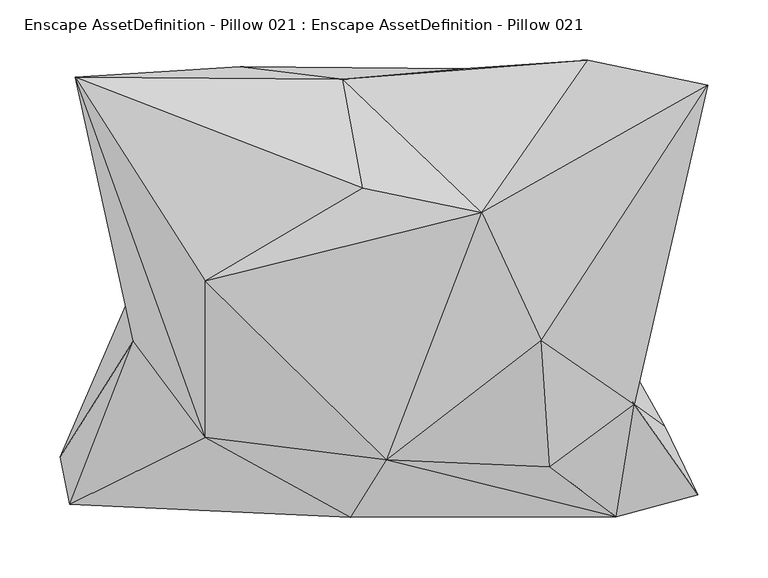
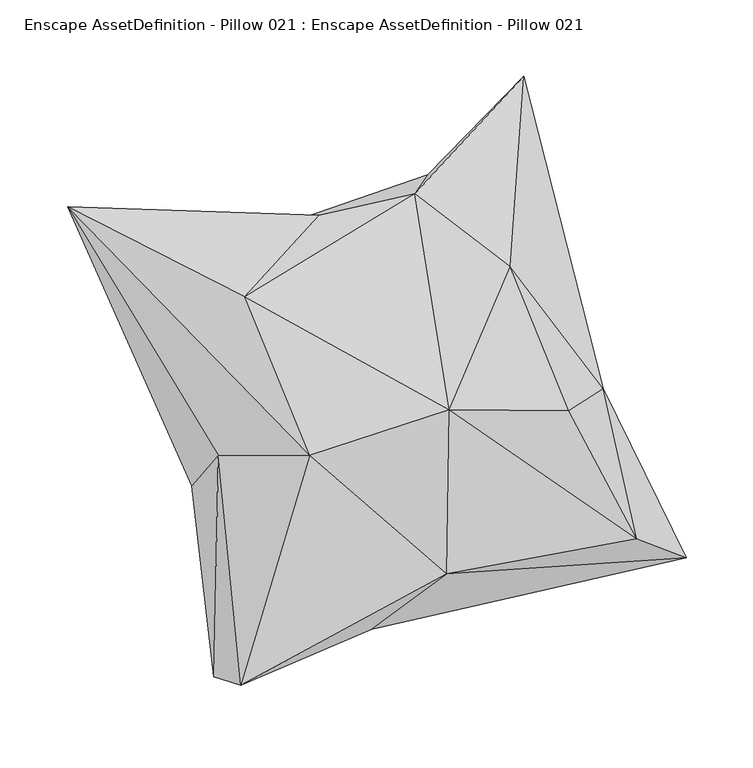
"""IFC4 building model written with IfcOpenShell, lengths in millimetres: geographic element geometry, Enscape AssetDefinition - Pillow 021 : Enscape AssetDefinition - Pillow 021."""

from ifc_helpers import new_model, si_unit, origin, place, context, project, spatial, faceted_brep, source, transform, mapped, element, save


def enscape_assetdefinition_pillow_021_enscape_assetdefinition_4c80c713(model_context):
    return source(origin(), model_context, "Body", "Brep", [
        faceted_brep([(64.0888957, 30.7370498, 25.1929534), (-143.7980654, 71.0720275, 65.4247882), (71.8568301, 186.4809455, 194.8526455), (-112.7818571, 188.243161, 228.8082324), (-189.6800206, -28.4973389, 15.9030257), (-184.8839459, 42.7831555, 118.8114086), (-249.5787692, 179.5944674, 400.0), (266.3978714, -166.8775289, 0.0), (239.074839, -110.2204338, 32.1962878), (-81.3963366, -138.9774501, 17.2490155), (-21.4233168, -185.8396883, 92.206817), (213.9525719, -91.9009694, 179.4970893), (198.7881773, -185.3794846, 57.9908256), (274.7940575, 172.8991399, 380.4311995), (136.7831768, -38.9781717, 323.930639), (143.668947, -143.8961623, 208.8636224), (219.887621, 44.370066, 251.7816693), (8.7453289, -137.940189, 253.429885), (87.3176831, 67.3528895, 365.8215329), (175.5031198, 193.6299957, 282.0246264), (-27.9000815, 178.1244077, 291.5814191), (-141.9868124, 10.5645076, 354.661924), (-11.4538997, 87.5275904, 362.3274263), (-141.7790726, -119.3264229, 239.1029632), (-201.7780748, -39.3323407, 211.9595465), (-254.1793472, -175.1309266, 30.67285), (-262.1708808, -135.5158138, 20.2720831)], [[[0, 1, 2]], [[2, 1, 3]], [[1, 0, 4]], [[5, 6, 1]], [[5, 1, 4]], [[3, 1, 6]], [[0, 7, 4]], [[2, 8, 0]], [[7, 0, 8]], [[7, 9, 4]], [[9, 7, 10]], [[11, 12, 7]], [[12, 10, 7]], [[11, 7, 8]], [[2, 11, 8]], [[13, 14, 11]], [[12, 11, 15]], [[16, 13, 11]], [[16, 11, 2]], [[15, 11, 14]], [[12, 15, 17]], [[10, 12, 17]], [[14, 17, 15]], [[17, 14, 18]], [[14, 13, 18]], [[18, 13, 19]], [[16, 19, 13]], [[16, 2, 19]], [[20, 19, 2]], [[3, 20, 2]], [[19, 20, 18]], [[21, 17, 18]], [[22, 18, 20]], [[21, 18, 22]], [[23, 10, 17]], [[21, 23, 17]], [[6, 23, 21]], [[21, 22, 6]], [[22, 20, 6]], [[6, 20, 3]], [[5, 24, 6]], [[23, 6, 24]], [[23, 24, 25]], [[10, 23, 25]], [[10, 25, 9]], [[4, 9, 25]], [[26, 25, 24]], [[25, 26, 4]], [[5, 26, 24]], [[26, 5, 4]]]),
    ])


if __name__ == "__main__":
    model = new_model("IFC4")
    model_context = context("Model", 3, world=origin())
    ifc_project = project(units=[si_unit("LENGTHUNIT", "METRE", prefix="MILLI")], contexts=[model_context])
    site = spatial("IfcSite", under=ifc_project)
    building = spatial("IfcBuilding", under=site)
    placement = place(None, origin())
    enscape_assetdefinition_pillow_021_enscape_assetdefinition_shape = enscape_assetdefinition_pillow_021_enscape_assetdefinition_4c80c713(model_context)
    element("IfcGeographicElement", 1, ObjectType="Enscape AssetDefinition - Pillow 021 : Enscape AssetDefinition - Pillow 021", at=placement, inside=building, context=model_context, shape_type="MappedRepresentation", body=[
        mapped(enscape_assetdefinition_pillow_021_enscape_assetdefinition_shape, transform((0.0, 0.0, 0.0), x_axis=(1.0, 0.0, 0.0), y_axis=(0.0, 1.0, 0.0), z_axis=(0.0, 0.0, 1.0))),
    ])
    save(model, "model.ifc")
